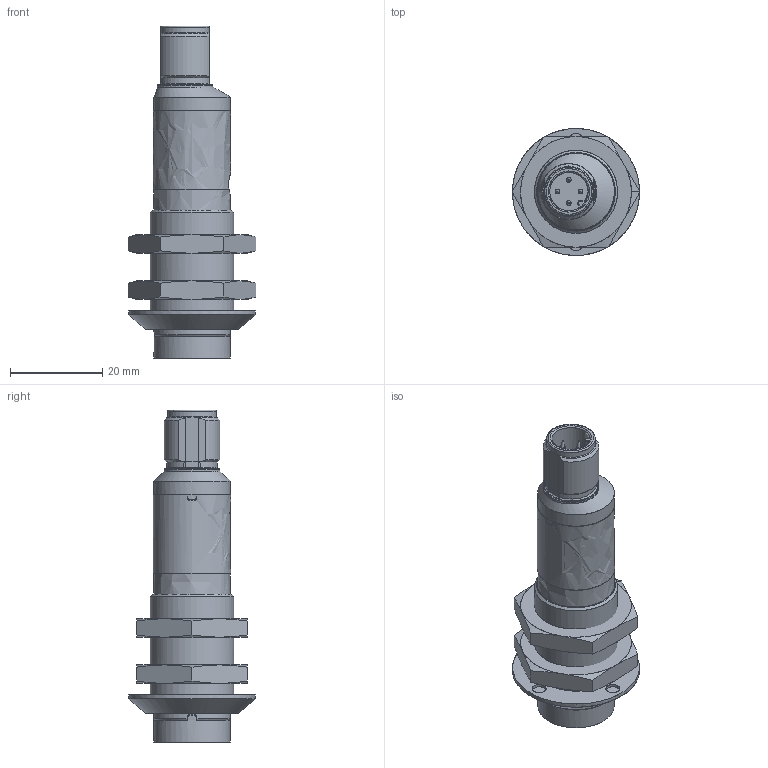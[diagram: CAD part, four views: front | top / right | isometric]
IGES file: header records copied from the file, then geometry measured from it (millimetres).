
Global section: file name: D:\CS\S15\DSD-0517.igs; native system: NX V7.5; preprocessor: SIEMENS PLM Software NX 7.5; date: 20130305.125421; units: millimetre
Bounding box: 27.71 x 27.5 x 71.9 mm (x, y, z)
Surface area: 29465.2 mm2 (no closed solid volume)
Topology: 0 solids, 0 shells, 1533 faces, 12970 edges, 12828 vertices
Faces by surface type: bspline 1533
